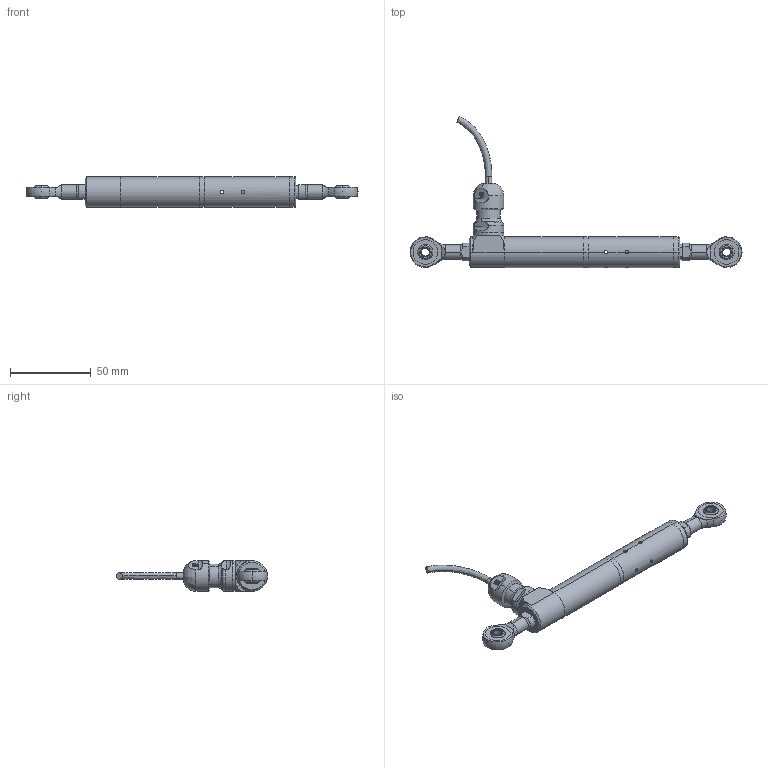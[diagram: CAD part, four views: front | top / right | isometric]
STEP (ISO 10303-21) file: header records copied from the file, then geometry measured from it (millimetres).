
FILE_DESCRIPTION (( 'STEP AP214' ), '1' );
FILE_NAME ('S119-5AI50NU.STEP', '2025-04-10T10:35:22', ( '' ), ( '' ), 'SwSTEP 2.0', 'SolidWorks 2023', '' );
FILE_SCHEMA (( 'AUTOMOTIVE_DESIGN' ));
Length unit declared in the file: millimetre
Products named in the file (1): S119-5AI50NU
Bounding box: 205 x 93.3 x 19.05 mm (x, y, z)
Surface area: 19912.7 mm2 (no closed solid volume)
Topology: 0 solids, 20 shells, 203 faces, 598 edges, 406 vertices
Faces by surface type: cylinder 85, plane 58, cone 28, torus 16, sphere 12, bspline 4
Entity records: 7991 total; most frequent: CARTESIAN_POINT 2874, ORIENTED_EDGE 1028, DIRECTION 1026, EDGE_CURVE 574, AXIS2_PLACEMENT_3D 436, VERTEX_POINT 394, EDGE_LOOP 250, CIRCLE 236
